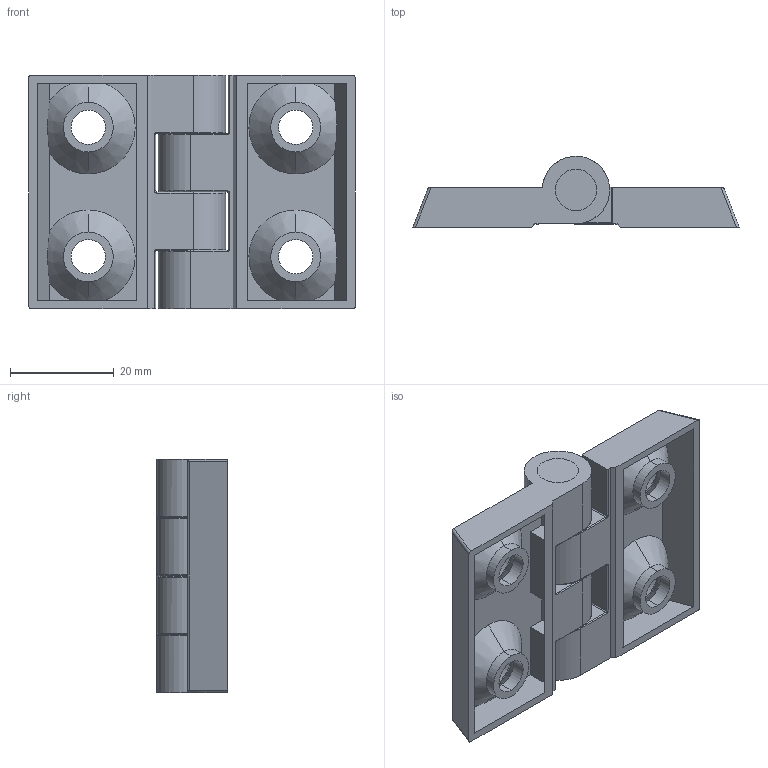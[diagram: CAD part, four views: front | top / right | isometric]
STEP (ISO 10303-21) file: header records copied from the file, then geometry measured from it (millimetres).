
FILE_DESCRIPTION (( 'STEP AP203' ), '1' );
FILE_NAME ('4040郈磁踢磁珜.STEP', '2018-06-06T08:59:43', ( 'China' ), ( 'Home' ), 'SwSTEP 2.0', 'SolidWorks 2013', '' );
FILE_SCHEMA (( 'CONFIG_CONTROL_DESIGN' ));
Length unit declared in the file: millimetre
Products named in the file (1): 4040郈磁踢磁珜
Bounding box: 63 x 13.7 x 45 mm (x, y, z)
Surface area: 12998.7 mm2 (no closed solid volume)
Topology: 0 solids, 3 shells, 166 faces, 428 edges, 272 vertices
Faces by surface type: cylinder 70, plane 58, torus 22, cone 16
Entity records: 5233 total; most frequent: CARTESIAN_POINT 1043, DIRECTION 904, ORIENTED_EDGE 820, EDGE_CURVE 428, AXIS2_PLACEMENT_3D 345, VERTEX_POINT 272, LINE 214, VECTOR 214
